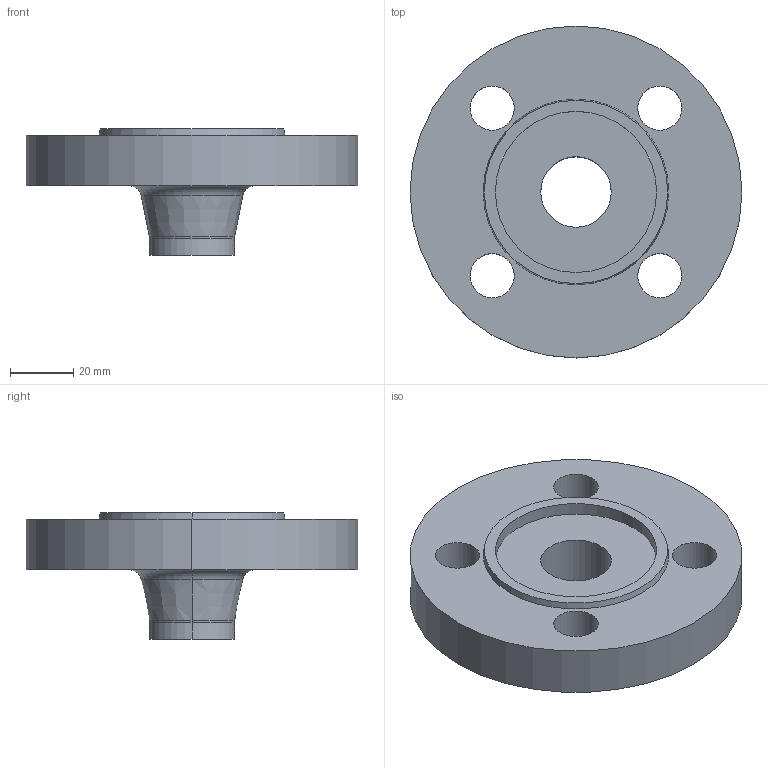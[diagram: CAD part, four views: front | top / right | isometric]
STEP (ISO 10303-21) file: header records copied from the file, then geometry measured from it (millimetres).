
FILE_DESCRIPTION (( 'STEP AP214' ), '1' );
FILE_NAME ('PN40 DN20 Type 11 - Type F Face.STEP', '2018-12-29T18:19:53', ( '' ), ( '' ), 'SwSTEP 2.0', 'SolidWorks 2019', '' );
FILE_SCHEMA (( 'AUTOMOTIVE_DESIGN' ));
Length unit declared in the file: millimetre
Products named in the file (1): PN40 DN20 Type 11 - Type F Face
Bounding box: 105 x 105 x 40 mm (x, y, z)
Volume: 126991.4 mm3; surface area: 28510 mm2
Topology: 1 solids, 1 shells, 29 faces, 66 edges, 42 vertices
Faces by surface type: cylinder 16, plane 5, torus 4, cone 4
Entity records: 892 total; most frequent: DIRECTION 172, CARTESIAN_POINT 138, ORIENTED_EDGE 132, AXIS2_PLACEMENT_3D 76, EDGE_CURVE 66, CIRCLE 46, VERTEX_POINT 42, EDGE_LOOP 42
